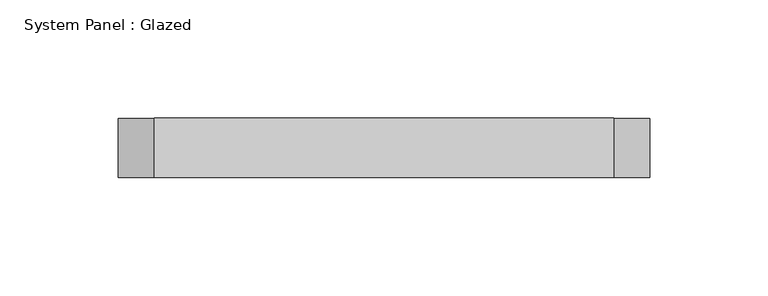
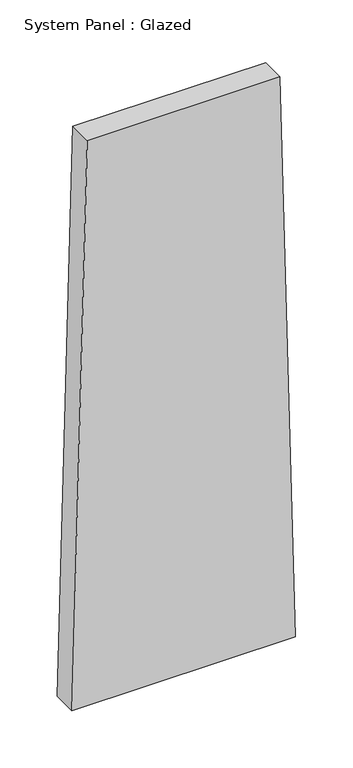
"""IFC4 building model written with IfcOpenShell, lengths in millimetres: plate geometry, System Panel : Glazed."""

from ifc_helpers import new_model, si_unit, frame, origin, place, context, project, spatial, polyline, outline, extrude, source, transform, mapped, element, save


def system_panel_glazed_d780504f(model_context):
    return source(origin(), model_context, "Body", "SweptSolid", [
        extrude(outline(polyline([(0.0, -112.1495918), (0.0, 112.1495918), (599.8065889, 96.9162092), (599.8065889, -96.9162092), (0.0, -112.1495918)])), frame((0.0, 24.5, 0.0), z_axis=(0.0, 1.0, 0.0), x_axis=(0.0, 0.0, 1.0)), (0.0, 0.0, 1.0), 25.0),
    ])


if __name__ == "__main__":
    model = new_model("IFC4")
    model_context = context("Model", 3, world=origin())
    ifc_project = project(units=[si_unit("LENGTHUNIT", "METRE", prefix="MILLI")], contexts=[model_context])
    site = spatial("IfcSite", under=ifc_project)
    building = spatial("IfcBuilding", under=site)
    placement = place(None, origin())
    system_panel_glazed_shape = system_panel_glazed_d780504f(model_context)
    element("IfcPlate", 1, ObjectType="System Panel : Glazed", at=placement, inside=building, context=model_context, shape_type="MappedRepresentation", body=[
        mapped(system_panel_glazed_shape, transform((0.0, 0.0, 0.0), x_axis=(1.0, 0.0, 0.0), y_axis=(0.0, 1.0, 0.0), z_axis=(0.0, 0.0, 1.0))),
    ])
    save(model, "model.ifc")
